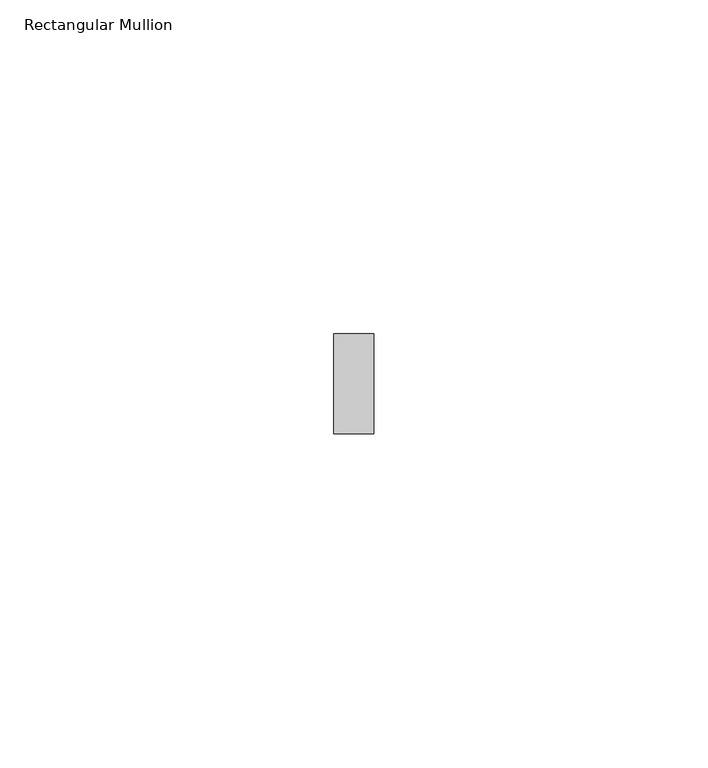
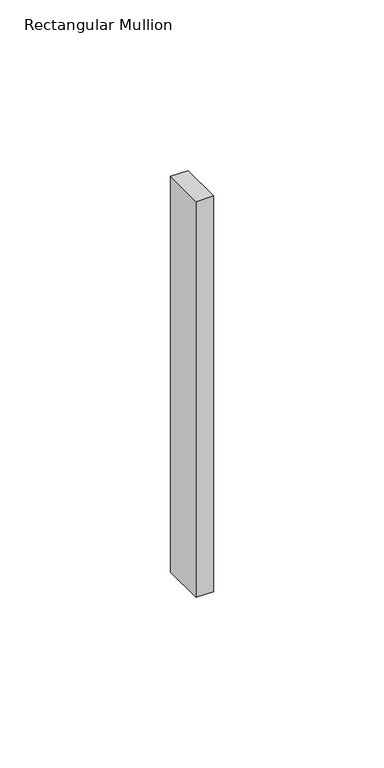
"""IFC4 building model written with IfcOpenShell, lengths in millimetres: member geometry, Rectangular Mullion : ARQ_HERR_15X6mm."""

from ifc_helpers import new_model, si_unit, frame, origin, place, context, project, spatial, polyline, outline, extrude, source, transform, mapped, element, save


def rectangular_mullion_f981cff7(model_context):
    return source(origin(), model_context, "Body", "SweptSolid", [
        extrude(outline(polyline([(0.0, 7.5), (0.0, -7.5), (-6.0, -7.5), (-6.0, 7.5), (0.0, 7.5)])), frame((0.0, 0.0, -141.6666667), z_axis=(0.0, 0.0, 1.0), x_axis=(1.0, 0.0, 0.0)), (0.0, 0.0, 1.0), 141.6666667),
    ])


if __name__ == "__main__":
    model = new_model("IFC4")
    model_context = context("Model", 3, world=origin())
    ifc_project = project(units=[si_unit("LENGTHUNIT", "METRE", prefix="MILLI")], contexts=[model_context])
    site = spatial("IfcSite", under=ifc_project)
    building = spatial("IfcBuilding", under=site)
    placement = place(None, origin())
    rectangular_mullion_shape = rectangular_mullion_f981cff7(model_context)
    element("IfcMember", 1, ObjectType="Rectangular Mullion : ARQ_HERR_15X6mm", at=placement, inside=building, context=model_context, shape_type="MappedRepresentation", body=[
        mapped(rectangular_mullion_shape, transform((0.0, 0.0, 0.0), x_axis=(1.0, 0.0, 0.0), y_axis=(0.0, 1.0, 0.0), z_axis=(0.0, 0.0, 1.0))),
    ])
    save(model, "model.ifc")
